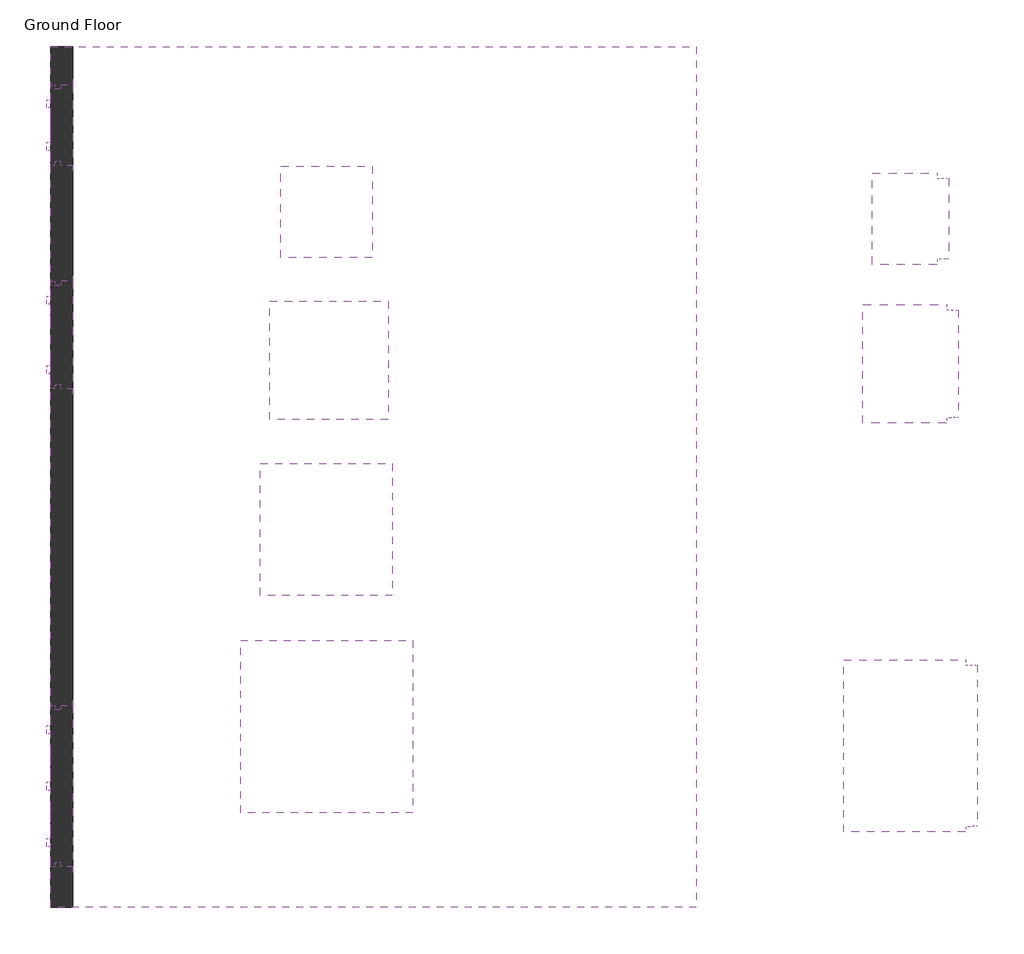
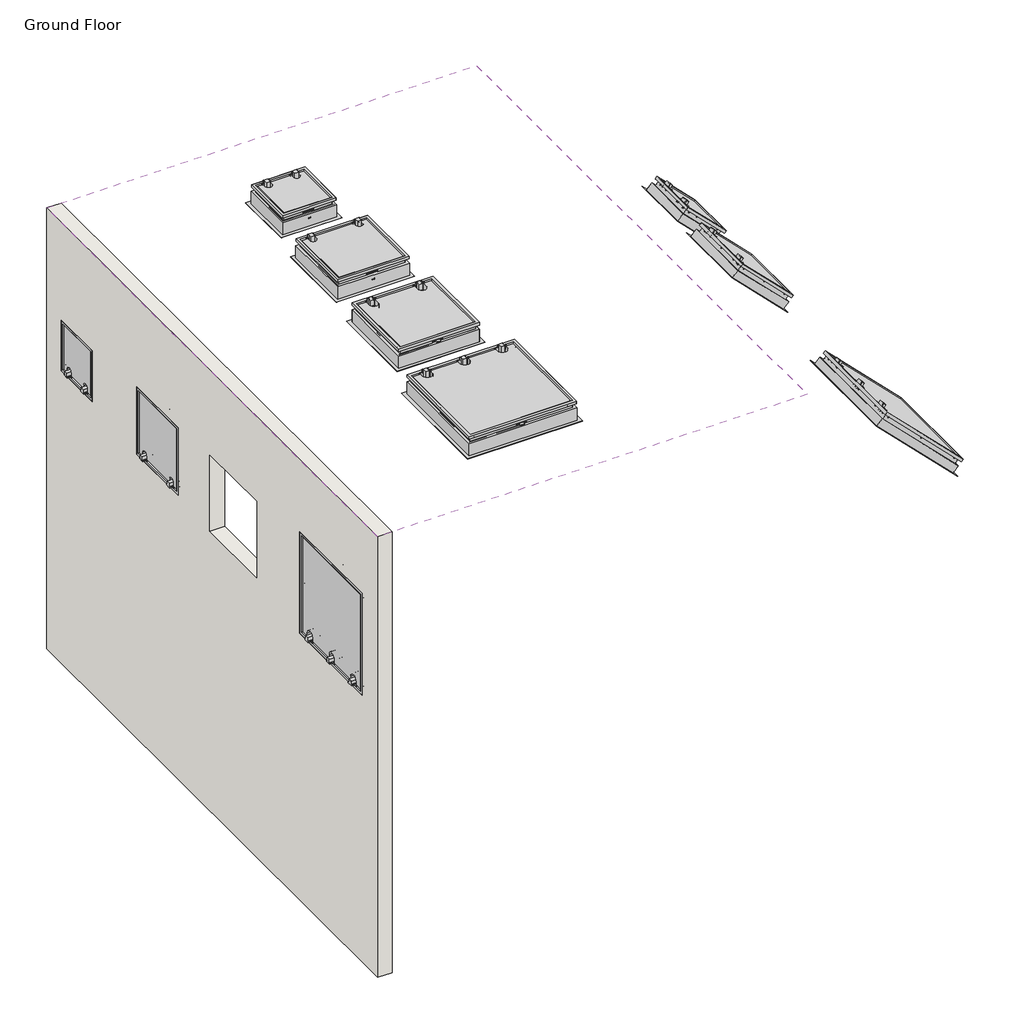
# One storey, incomplete: 10 proxies, 1 covering, 1 wall.
"""IFC4 building model written with IfcOpenShell, lengths in millimetres."""

from ifc_helpers import new_model, si_unit, frame, origin, place, context, project, spatial, polyline, outline, extrude, transform, mapped, element, save
from components import proxy_300_x_300_panel_cf19cad4, proxy_300_x_300_panel_04ea32ab, proxy_400_x_400_panel_3b8c4bce, proxy_400_x_400_panel_ea238106, proxy_450_x_450_panel_227bbeb4, proxy_600_x_600_panel_ee4ed7a9, proxy_600_x_600_panel_7c6bfa36, proxy_600_x_600_panel_0ffa8e7a, proxy_600_x_600_panel_83bb5f35

model = new_model("IFC4")

# Units and contexts
model_context = context("Model", 3, world=origin())
ifc_project = project(units=[si_unit("LENGTHUNIT", "METRE", prefix="MILLI")], contexts=[model_context])

# Site, building, storey
site = spatial("IfcSite", under=ifc_project)
building = spatial("IfcBuilding", under=site)
storey = spatial("IfcBuildingStorey", under=building, Name="Ground Floor", Elevation=0.0)

# Proxies
placement = place(None, origin())
proxy_300_x_300_panel_shape = proxy_300_x_300_panel_cf19cad4(model_context)
element("IfcBuildingElementProxy", 1, Name="300 x 300 Fyreshield : 300 x 300 Panel", ObjectType="300 x 300 Fyreshield : 300 x 300 Panel", at=placement, inside=storey, context=model_context, shape_type="MappedRepresentation", body=[
    mapped(proxy_300_x_300_panel_shape, transform((-1981.3342359, 8527.1029431, 1725.0), x_axis=(0.0, 1.0, 0.0), y_axis=(0.0, 0.0, 1.0), z_axis=(1.0, 0.0, 0.0))),
])
element("IfcBuildingElementProxy", 2, Name="300 x 300 Fyreshield : 300 x 300 Panel", ObjectType="300 x 300 Fyreshield : 300 x 300 Panel", at=placement, inside=storey, context=model_context, shape_type="MappedRepresentation", body=[
    mapped(proxy_300_x_300_panel_shape, transform((1005.3401516, 8179.3219665, 1930.1885275), x_axis=(0.0, 1.0, 0.0), y_axis=(0.7071067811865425, 0.0, -0.7071067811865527), z_axis=(-0.7071067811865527, 0.0, -0.7071067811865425))),
])
proxy_300_x_300_panel_2_shape = proxy_300_x_300_panel_04ea32ab(model_context)
element("IfcBuildingElementProxy", 3, Name="300 x 300 Fyreshield : 300 x 300 Panel", ObjectType="300 x 300 Fyreshield : 300 x 300 Panel", at=placement, inside=storey, context=model_context, shape_type="MappedRepresentation", body=[
    mapped(proxy_300_x_300_panel_2_shape, transform((-1037.34831, 8354.3148187, 2600.0), x_axis=(1.0, 0.0, 0.0), y_axis=(0.0, -1.0, 0.0), z_axis=(0.0, 0.0, -1.0))),
])
proxy_400_x_400_panel_shape = proxy_400_x_400_panel_3b8c4bce(model_context)
element("IfcBuildingElementProxy", 4, Name="400 x 400 Fyreshield : 400 x 400 Panel", ObjectType="400 x 400 Fyreshield : 400 x 400 Panel", at=placement, inside=storey, context=model_context, shape_type="MappedRepresentation", body=[
    mapped(proxy_400_x_400_panel_shape, transform((-1981.3342359, 7747.1029431, 1775.0), x_axis=(0.0, 1.0, 0.0), y_axis=(0.0, 0.0, 1.0), z_axis=(1.0, 0.0, 0.0))),
])
element("IfcBuildingElementProxy", 5, Name="400 x 400 Fyreshield : 400 x 400 Panel", ObjectType="400 x 400 Fyreshield : 400 x 400 Panel", at=placement, inside=storey, context=model_context, shape_type="MappedRepresentation", body=[
    mapped(proxy_400_x_400_panel_shape, transform((1040.6954907, 7639.3219665, 1894.8331885), x_axis=(0.0, 1.0, 0.0), y_axis=(0.7071067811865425, 0.0, -0.7071067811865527), z_axis=(-0.7071067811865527, 0.0, -0.7071067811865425))),
])
proxy_400_x_400_panel_2_shape = proxy_400_x_400_panel_ea238106(model_context)
element("IfcBuildingElementProxy", 6, Name="400 x 400 Fyreshield : 400 x 400 Panel", ObjectType="400 x 400 Fyreshield : 400 x 400 Panel", at=placement, inside=storey, context=model_context, shape_type="MappedRepresentation", body=[
    mapped(proxy_400_x_400_panel_2_shape, transform((-1028.4031839, 7751.958455, 2600.0), x_axis=(1.0, 0.0, 0.0), y_axis=(0.0, -1.0, 0.0), z_axis=(0.0, 0.0, -1.0))),
])
proxy_450_x_450_panel_shape = proxy_450_x_450_panel_227bbeb4(model_context)
element("IfcBuildingElementProxy", 7, Name="450 x 450 Fyreshield : 450 x 450 Panel", ObjectType="450 x 450 Fyreshield : 450 x 450 Panel", at=placement, inside=storey, context=model_context, shape_type="MappedRepresentation", body=[
    mapped(proxy_450_x_450_panel_shape, transform((-963.276069, 6948.3831337, 2600.0), x_axis=(1.0, 0.0, 0.0), y_axis=(0.0, -1.0, 0.0), z_axis=(0.0, 0.0, -1.0))),
])
proxy_600_x_600_panel_shape = proxy_600_x_600_panel_ee4ed7a9(model_context)
proxy_600_x_600_panel_2_shape = proxy_600_x_600_panel_7c6bfa36(model_context)
element("IfcBuildingElementProxy", 8, Name="600 x 600 Fyreshield : 600 x 600 Panel", ObjectType="600 x 600 Fyreshield : 600 x 600 Panel", at=placement, inside=storey, context=model_context, shape_type="MappedRepresentation", body=[
    mapped(proxy_600_x_600_panel_shape, transform((-1036.9321843, 6290.1229055, 2600.0), x_axis=(1.0, 0.0, 0.0), y_axis=(0.0, -1.0, 0.0), z_axis=(0.0, 0.0, -1.0))),
    mapped(proxy_600_x_600_panel_2_shape, transform((-1036.9321843, 6290.1229055, 2600.0), x_axis=(1.0, 0.0, 0.0), y_axis=(0.0, -1.0, 0.0), z_axis=(0.0, 0.0, -1.0))),
])
proxy_600_x_600_panel_3_shape = proxy_600_x_600_panel_0ffa8e7a(model_context)
proxy_600_x_600_panel_4_shape = proxy_600_x_600_panel_83bb5f35(model_context)
element("IfcBuildingElementProxy", 9, Name="600 x 600 Fyreshield : 600 x 600 Panel", ObjectType="600 x 600 Fyreshield : 600 x 600 Panel", at=placement, inside=storey, context=model_context, shape_type="MappedRepresentation", body=[
    mapped(proxy_600_x_600_panel_3_shape, transform((-1981.3342359, 6069.3219665, 1875.0), x_axis=(0.0, 1.0, 0.0), y_axis=(0.0, 0.0, 1.0), z_axis=(1.0, 0.0, 0.0))),
    mapped(proxy_600_x_600_panel_4_shape, transform((-1981.3342359, 6069.3219665, 1875.0), x_axis=(0.0, 1.0, 0.0), y_axis=(0.0, 0.0, 1.0), z_axis=(1.0, 0.0, 0.0))),
])
element("IfcBuildingElementProxy", 10, Name="600 x 600 Fyreshield : 600 x 600 Panel", ObjectType="600 x 600 Fyreshield : 600 x 600 Panel", at=placement, inside=storey, context=model_context, shape_type="MappedRepresentation", body=[
    mapped(proxy_600_x_600_panel_3_shape, transform((1111.4061688, 6219.3219665, 1824.1225103), x_axis=(0.0, 1.0, 0.0), y_axis=(0.7071067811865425, 0.0, -0.7071067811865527), z_axis=(-0.7071067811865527, 0.0, -0.7071067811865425))),
    mapped(proxy_600_x_600_panel_4_shape, transform((1111.4061688, 6219.3219665, 1824.1225103), x_axis=(0.0, 1.0, 0.0), y_axis=(0.7071067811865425, 0.0, -0.7071067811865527), z_axis=(-0.7071067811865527, 0.0, -0.7071067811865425))),
])

# Covering
element("IfcCovering", 11, ObjectType="Plain", at=placement, inside=storey, context=model_context, shape_type="SweptSolid", body=[
    extrude(outline(polyline([(-2063.3342359, 8819.3219665), (336.6657641, 8819.3219665), (336.6657641, 5619.3219665), (-2063.3342359, 5619.3219665), (-2063.3342359, 8819.3219665)]), holes=[polyline([(-1336.9321843, 5990.1229055), (-736.9321843, 5990.1229055), (-736.9321843, 6590.1229055), (-1336.9321843, 6590.1229055), (-1336.9321843, 5990.1229055)]), polyline([(-1263.276069, 6798.3831337), (-813.276069, 6798.3831337), (-813.276069, 7248.3831337), (-1263.276069, 7248.3831337), (-1263.276069, 6798.3831337)]), polyline([(-1228.4031839, 7451.958455), (-828.4031839, 7451.958455), (-828.4031839, 7851.958455), (-1228.4031839, 7851.958455), (-1228.4031839, 7451.958455)]), polyline([(-1187.34831, 8054.3148187), (-887.34831, 8054.3148187), (-887.34831, 8354.3148187), (-1187.34831, 8354.3148187), (-1187.34831, 8054.3148187)])]), frame((0.0, 0.0, 2600.0), z_axis=(0.0, 0.0, 1.0), x_axis=(1.0, 0.0, 0.0)), (0.0, 0.0, 1.0), 112.0),
])

# Wall
element("IfcWall", 12, ObjectType="Generic 100mm Wall", at=placement, inside=storey, context=model_context, shape_type="SweptSolid", body=[
    extrude(outline(polyline([(8819.3219665, 0.0), (5619.3219665, 0.0), (5619.3219665, 2600.0), (8819.3219665, 2600.0), (8819.3219665, 0.0)]), holes=[polyline([(6369.3219665, 2175.0), (5769.3219665, 2175.0), (5769.3219665, 1575.0), (6369.3219665, 1575.0), (6369.3219665, 2175.0)]), polyline([(7239.3219665, 2100.0), (6789.3219665, 2100.0), (6789.3219665, 1650.0), (7239.3219665, 1650.0), (7239.3219665, 2100.0)]), polyline([(7947.1029431, 2075.0), (7547.1029431, 2075.0), (7547.1029431, 1675.0), (7947.1029431, 1675.0), (7947.1029431, 2075.0)]), polyline([(8677.1029431, 2025.0), (8377.1029431, 2025.0), (8377.1029431, 1725.0), (8677.1029431, 1725.0), (8677.1029431, 2025.0)])]), frame((-2063.3342359, 0.0, 0.0), z_axis=(1.0, 0.0, 0.0), x_axis=(0.0, 1.0, 0.0)), (0.0, 0.0, 1.0), 82.0),
])

save(model, "model.ifc")
